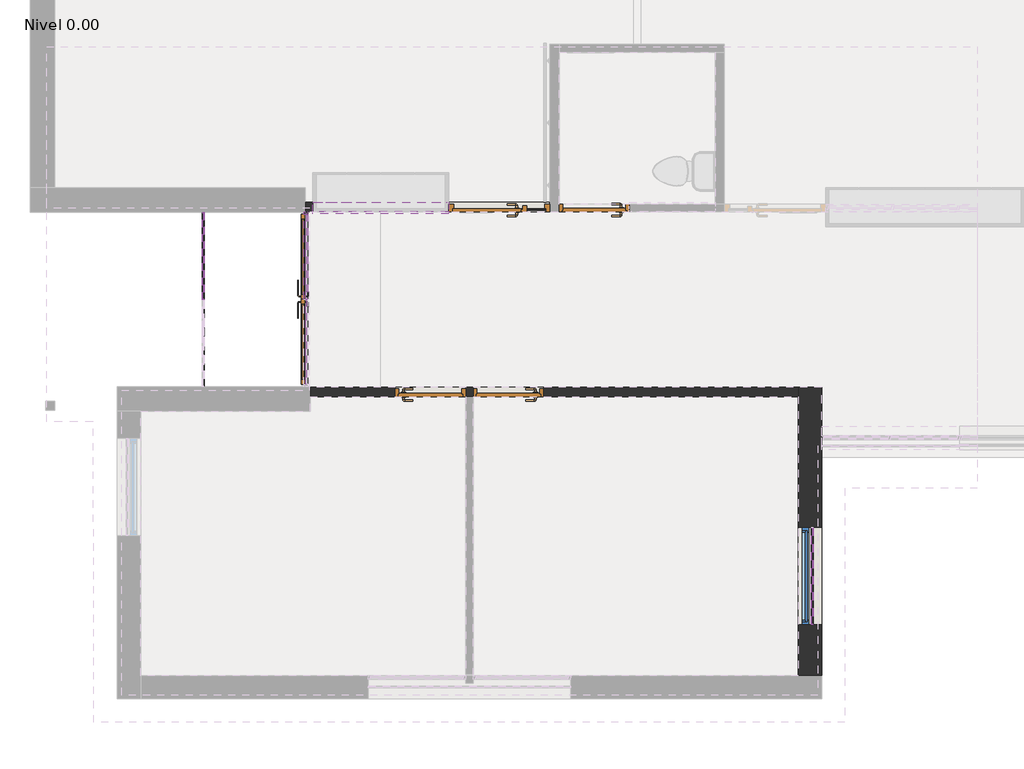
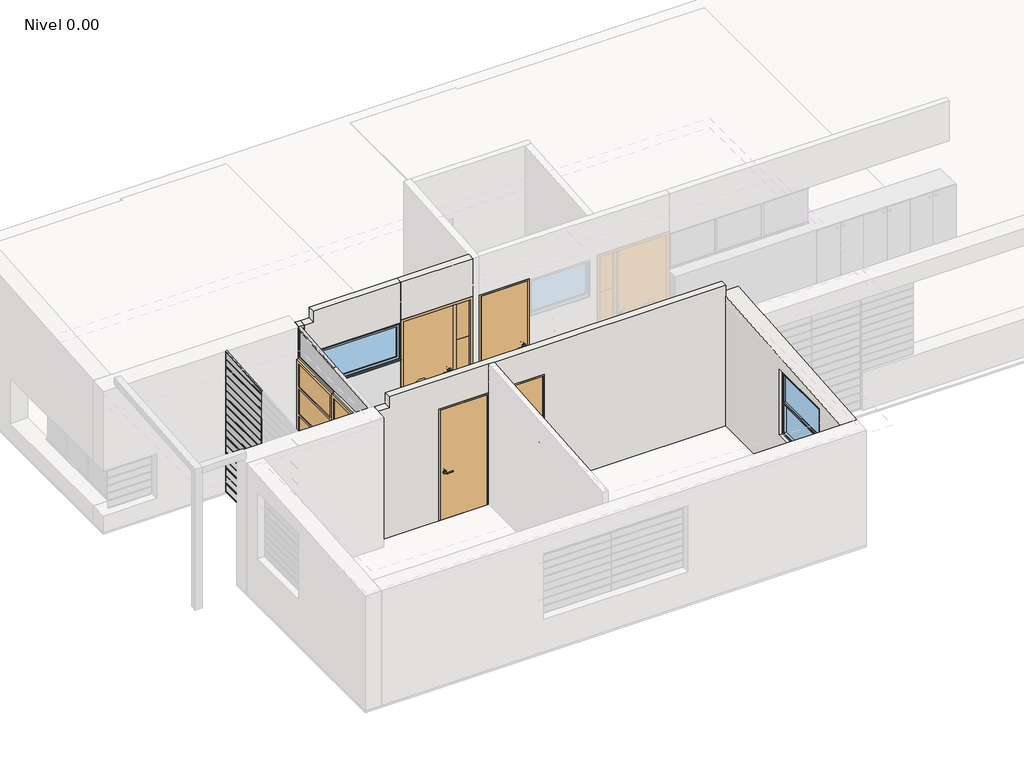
# One storey, part 3 of 27: 81 members, 22 plates, 5 doors, 5 walls, 2 windows.
"""IFC4 building model written with IfcOpenShell, lengths in millimetres."""

from ifc_helpers import new_model, si_unit, frame, origin, place, context, project, spatial, polyline, outline, extrude, faceted_brep, transform, mapped, element, save
from components import door_257b7ec9, puerta_c_02_04_c02_900x2100mm_1ad69d61, puerta_c_02_04_c02_900x2100mm_8723c3b4, puerta_c_02_04_c04_900x2100mm_1a8049c7, puerta_c_03_c03_1300x2100mm_be522cc0, circular_mullion_5fc61161, circular_mullion_3fe6ea7b, circular_mullion_e8028f71, l_corner_mullion_b20a5560, l_corner_mullion_fa812596, l_corner_mullion_3bf1f540, rectangular_mullion_3b31ee1e, rectangular_mullion_685686f8, rectangular_mullion_9a28259a, rectangular_mullion_8b01d1bd, rectangular_mullion_43c86492, rectangular_mullion_cc8915f7, rectangular_mullion_7228fb4c, rectangular_mullion_3f5f0f74, rectangular_mullion_a5abb8e0, rectangular_mullion_85fed397, rectangular_mullion_363bff1e, rectangular_mullion_f5d957c2, system_panel_1891fa89, system_panel_e1d120a6, system_panel_ae9d9fd1, system_panel_4abefd2b, system_panel_96016f27, system_panel_86425350, system_panel_9ad5222e, system_panel_glazed_5e888308, ventana_fija_1780x700mm_87993d91, vp_1250x1250mm_2af825d3

model = new_model("IFC4")

# Units and contexts
model_context = context("Model", 3, world=origin())
ifc_project = project(units=[si_unit("LENGTHUNIT", "METRE", prefix="MILLI")], contexts=[model_context])

# Site, building, storey
site = spatial("IfcSite", under=ifc_project)
building = spatial("IfcBuilding", under=site)
storey = spatial("IfcBuildingStorey", under=building, Name="Nivel 0.00", Elevation=0.0)

# Doors
placement = place(None, origin())
door_shape = door_257b7ec9(model_context)
element("IfcDoor", 1, ObjectType="PUERTA_ACCESO : PUERTA_ACCESO", at=placement, inside=storey, context=model_context, shape_type="MappedRepresentation", body=[
    mapped(door_shape, transform((-12585.5666682, -1961.8570383, 30.0), x_axis=(0.0, -1.0, 0.0), y_axis=(1.0, 0.0, 0.0), z_axis=(0.0, 0.0, 1.0))),
])
puerta_c_02_04_c02_900x2100mm_shape = puerta_c_02_04_c02_900x2100mm_1ad69d61(model_context)
element("IfcDoor", 2, ObjectType="PUERTA_C-02_04 : C02_900X2100mm", at=placement, inside=storey, context=model_context, shape_type="MappedRepresentation", body=[
    mapped(puerta_c_02_04_c02_900x2100mm_shape, transform((-8885.5924627, -784.2578399, 0.0), x_axis=(-1.0, 0.0, 0.0), y_axis=(0.0, -1.0, 0.0), z_axis=(0.0, 0.0, 1.0))),
])
puerta_c_02_04_c02_900x2100mm_2_shape = puerta_c_02_04_c02_900x2100mm_8723c3b4(model_context)
element("IfcDoor", 3, ObjectType="PUERTA_C-02_04 : C04_900X2100mm", at=placement, inside=storey, context=model_context, shape_type="MappedRepresentation", body=[
    mapped(puerta_c_02_04_c02_900x2100mm_2_shape, transform((-9987.4821357, -3144.2547653, 0.0), x_axis=(-1.0, 0.0, 0.0), y_axis=(0.0, -1.0, 0.0), z_axis=(0.0, 0.0, 1.0))),
])
puerta_c_02_04_c04_900x2100mm_shape = puerta_c_02_04_c04_900x2100mm_1a8049c7(model_context)
element("IfcDoor", 4, ObjectType="PUERTA_C-02_04 : C04_900X2100mm", at=placement, inside=storey, context=model_context, shape_type="MappedRepresentation", body=[
    mapped(puerta_c_02_04_c04_900x2100mm_shape, transform((-10987.4821358, -3144.2547653, 0.0), x_axis=(1.0, 0.0, 0.0), y_axis=(0.0, 1.0, 0.0), z_axis=(0.0, 0.0, 1.0))),
])
puerta_c_03_c03_1300x2100mm_shape = puerta_c_03_c03_1300x2100mm_be522cc0(model_context)
element("IfcDoor", 5, ObjectType="PUERTA_C-03 : C03_1300X2100mm", at=placement, inside=storey, context=model_context, shape_type="MappedRepresentation", body=[
    mapped(puerta_c_03_c03_1300x2100mm_shape, transform((-10105.5924627, -774.2593113, 0.0), x_axis=(1.0, 0.0, 0.0), y_axis=(0.0, 1.0, 0.0), z_axis=(0.0, 0.0, 1.0))),
])

# Members
circular_mullion_shape = circular_mullion_5fc61161(model_context)
element("IfcMember", 6, ObjectType="Circular Mullion : ARQ_HERR_16mm", at=placement, inside=storey, context=model_context, shape_type="MappedRepresentation", body=[
    mapped(circular_mullion_shape, transform((-6092.5557705, -6134.5609005, 988.8888889), x_axis=(0.0, 0.0, 1.0), y_axis=(-1.0, 0.0, 0.0), z_axis=(0.0, -1.0, 0.0))),
])
element("IfcMember", 7, ObjectType="Circular Mullion : ARQ_HERR_16mm", at=placement, inside=storey, context=model_context, shape_type="MappedRepresentation", body=[
    mapped(circular_mullion_shape, transform((-6092.5557705, -6134.5609005, 1127.7777778), x_axis=(0.0, 0.0, 1.0), y_axis=(-1.0, 0.0, 0.0), z_axis=(0.0, -1.0, 0.0))),
])
element("IfcMember", 8, ObjectType="Circular Mullion : ARQ_HERR_16mm", at=placement, inside=storey, context=model_context, shape_type="MappedRepresentation", body=[
    mapped(circular_mullion_shape, transform((-6092.5557705, -6134.5609005, 1266.6666667), x_axis=(0.0, 0.0, 1.0), y_axis=(-1.0, 0.0, 0.0), z_axis=(0.0, -1.0, 0.0))),
])
element("IfcMember", 9, ObjectType="Circular Mullion : ARQ_HERR_16mm", at=placement, inside=storey, context=model_context, shape_type="MappedRepresentation", body=[
    mapped(circular_mullion_shape, transform((-6092.5557705, -6134.5609005, 1405.5555556), x_axis=(0.0, 0.0, 1.0), y_axis=(-1.0, 0.0, 0.0), z_axis=(0.0, -1.0, 0.0))),
])
element("IfcMember", 10, ObjectType="Circular Mullion : ARQ_HERR_16mm", at=placement, inside=storey, context=model_context, shape_type="MappedRepresentation", body=[
    mapped(circular_mullion_shape, transform((-6092.5557705, -6134.5609005, 1544.4444444), x_axis=(0.0, 0.0, 1.0), y_axis=(-1.0, 0.0, 0.0), z_axis=(0.0, -1.0, 0.0))),
])
element("IfcMember", 11, ObjectType="Circular Mullion : ARQ_HERR_16mm", at=placement, inside=storey, context=model_context, shape_type="MappedRepresentation", body=[
    mapped(circular_mullion_shape, transform((-6092.5557705, -6134.5609005, 1683.3333333), x_axis=(0.0, 0.0, 1.0), y_axis=(-1.0, 0.0, 0.0), z_axis=(0.0, -1.0, 0.0))),
])
element("IfcMember", 12, ObjectType="Circular Mullion : ARQ_HERR_16mm", at=placement, inside=storey, context=model_context, shape_type="MappedRepresentation", body=[
    mapped(circular_mullion_shape, transform((-6092.5557705, -6134.5609005, 1822.2222222), x_axis=(0.0, 0.0, 1.0), y_axis=(-1.0, 0.0, 0.0), z_axis=(0.0, -1.0, 0.0))),
])
element("IfcMember", 13, ObjectType="Circular Mullion : ARQ_HERR_16mm", at=placement, inside=storey, context=model_context, shape_type="MappedRepresentation", body=[
    mapped(circular_mullion_shape, transform((-6092.5557705, -6134.5609005, 1961.1111111), x_axis=(0.0, 0.0, 1.0), y_axis=(-1.0, 0.0, 0.0), z_axis=(0.0, -1.0, 0.0))),
])
circular_mullion_2_shape = circular_mullion_3fe6ea7b(model_context)
element("IfcMember", 14, ObjectType="Circular Mullion : ARQ_HERR_16mm", at=placement, inside=storey, context=model_context, shape_type="MappedRepresentation", body=[
    mapped(circular_mullion_2_shape, transform((-13905.5666682, -1962.5828329, 148.0338449), x_axis=(0.0, 0.0, 1.0), y_axis=(-1.0, 0.0, 0.0), z_axis=(0.0, -1.0, 0.0))),
])
element("IfcMember", 15, ObjectType="Circular Mullion : ARQ_HERR_16mm", at=placement, inside=storey, context=model_context, shape_type="MappedRepresentation", body=[
    mapped(circular_mullion_2_shape, transform((-13905.5666682, -1962.5828329, 296.0676899), x_axis=(0.0, 0.0, 1.0), y_axis=(-1.0, 0.0, 0.0), z_axis=(0.0, -1.0, 0.0))),
])
element("IfcMember", 16, ObjectType="Circular Mullion : ARQ_HERR_16mm", at=placement, inside=storey, context=model_context, shape_type="MappedRepresentation", body=[
    mapped(circular_mullion_2_shape, transform((-13905.5666682, -1962.5828329, 444.1015348), x_axis=(0.0, 0.0, 1.0), y_axis=(-1.0, 0.0, 0.0), z_axis=(0.0, -1.0, 0.0))),
])
element("IfcMember", 17, ObjectType="Circular Mullion : ARQ_HERR_16mm", at=placement, inside=storey, context=model_context, shape_type="MappedRepresentation", body=[
    mapped(circular_mullion_2_shape, transform((-13905.5666682, -1962.5828329, 592.1353797), x_axis=(0.0, 0.0, 1.0), y_axis=(-1.0, 0.0, 0.0), z_axis=(0.0, -1.0, 0.0))),
])
element("IfcMember", 18, ObjectType="Circular Mullion : ARQ_HERR_16mm", at=placement, inside=storey, context=model_context, shape_type="MappedRepresentation", body=[
    mapped(circular_mullion_2_shape, transform((-13905.5666682, -1962.5828329, 740.1692247), x_axis=(0.0, 0.0, 1.0), y_axis=(-1.0, 0.0, 0.0), z_axis=(0.0, -1.0, 0.0))),
])
element("IfcMember", 19, ObjectType="Circular Mullion : ARQ_HERR_16mm", at=placement, inside=storey, context=model_context, shape_type="MappedRepresentation", body=[
    mapped(circular_mullion_2_shape, transform((-13905.5666682, -1962.5828329, 888.2030696), x_axis=(0.0, 0.0, 1.0), y_axis=(-1.0, 0.0, 0.0), z_axis=(0.0, -1.0, 0.0))),
])
element("IfcMember", 20, ObjectType="Circular Mullion : ARQ_HERR_16mm", at=placement, inside=storey, context=model_context, shape_type="MappedRepresentation", body=[
    mapped(circular_mullion_2_shape, transform((-13905.5666682, -1962.5828329, 1036.2369145), x_axis=(0.0, 0.0, 1.0), y_axis=(-1.0, 0.0, 0.0), z_axis=(0.0, -1.0, 0.0))),
])
element("IfcMember", 21, ObjectType="Circular Mullion : ARQ_HERR_16mm", at=placement, inside=storey, context=model_context, shape_type="MappedRepresentation", body=[
    mapped(circular_mullion_2_shape, transform((-13905.5666682, -1962.5828329, 1184.2707594), x_axis=(0.0, 0.0, 1.0), y_axis=(-1.0, 0.0, 0.0), z_axis=(0.0, -1.0, 0.0))),
])
element("IfcMember", 22, ObjectType="Circular Mullion : ARQ_HERR_16mm", at=placement, inside=storey, context=model_context, shape_type="MappedRepresentation", body=[
    mapped(circular_mullion_2_shape, transform((-13905.5666682, -1962.5828329, 1332.3046044), x_axis=(0.0, 0.0, 1.0), y_axis=(-1.0, 0.0, 0.0), z_axis=(0.0, -1.0, 0.0))),
])
element("IfcMember", 23, ObjectType="Circular Mullion : ARQ_HERR_16mm", at=placement, inside=storey, context=model_context, shape_type="MappedRepresentation", body=[
    mapped(circular_mullion_2_shape, transform((-13905.5666682, -1962.5828329, 1480.3384493), x_axis=(0.0, 0.0, 1.0), y_axis=(-1.0, 0.0, 0.0), z_axis=(0.0, -1.0, 0.0))),
])
element("IfcMember", 24, ObjectType="Circular Mullion : ARQ_HERR_16mm", at=placement, inside=storey, context=model_context, shape_type="MappedRepresentation", body=[
    mapped(circular_mullion_2_shape, transform((-13905.5666682, -1962.5828329, 1628.3722942), x_axis=(0.0, 0.0, 1.0), y_axis=(-1.0, 0.0, 0.0), z_axis=(0.0, -1.0, 0.0))),
])
element("IfcMember", 25, ObjectType="Circular Mullion : ARQ_HERR_16mm", at=placement, inside=storey, context=model_context, shape_type="MappedRepresentation", body=[
    mapped(circular_mullion_2_shape, transform((-13905.5666682, -1962.5828329, 1776.4061392), x_axis=(0.0, 0.0, 1.0), y_axis=(-1.0, 0.0, 0.0), z_axis=(0.0, -1.0, 0.0))),
])
element("IfcMember", 26, ObjectType="Circular Mullion : ARQ_HERR_16mm", at=placement, inside=storey, context=model_context, shape_type="MappedRepresentation", body=[
    mapped(circular_mullion_2_shape, transform((-13905.5666682, -1962.5828329, 1924.4399841), x_axis=(0.0, 0.0, 1.0), y_axis=(-1.0, 0.0, 0.0), z_axis=(0.0, -1.0, 0.0))),
])
circular_mullion_3_shape = circular_mullion_e8028f71(model_context)
element("IfcMember", 27, ObjectType="Circular Mullion : ARQ_HERR_16mm", at=placement, inside=storey, context=model_context, shape_type="MappedRepresentation", body=[
    mapped(circular_mullion_3_shape, transform((-13905.5666682, -1965.5828329, 2220.507674), x_axis=(0.0, 0.0, 1.0), y_axis=(-1.0, 0.0, 0.0), z_axis=(0.0, -1.0, 0.0))),
])
element("IfcMember", 28, ObjectType="Circular Mullion : ARQ_HERR_16mm", at=placement, inside=storey, context=model_context, shape_type="MappedRepresentation", body=[
    mapped(circular_mullion_3_shape, transform((-13905.5666682, -1965.5828329, 2368.5415189), x_axis=(0.0, 0.0, 1.0), y_axis=(-1.0, 0.0, 0.0), z_axis=(0.0, -1.0, 0.0))),
])
element("IfcMember", 29, ObjectType="Circular Mullion : ARQ_HERR_16mm", at=placement, inside=storey, context=model_context, shape_type="MappedRepresentation", body=[
    mapped(circular_mullion_3_shape, transform((-13905.5666682, -1965.5828329, 2516.5753638), x_axis=(0.0, 0.0, 1.0), y_axis=(-1.0, 0.0, 0.0), z_axis=(0.0, -1.0, 0.0))),
])
l_corner_mullion_shape = l_corner_mullion_b20a5560(model_context)
element("IfcMember", 30, ObjectType="L Corner Mullion : ARQ_HERR_15X6mm", at=placement, inside=storey, context=model_context, shape_type="MappedRepresentation", body=[
    mapped(l_corner_mullion_shape, transform((-6092.5557705, -6134.5609005, 2100.0), x_axis=(0.0, 0.0, 1.0), y_axis=(-1.0, 0.0, 0.0), z_axis=(0.0, -1.0, 0.0))),
])
element("IfcMember", 31, ObjectType="L Corner Mullion : ARQ_HERR_15X6mm", at=placement, inside=storey, context=model_context, shape_type="MappedRepresentation", body=[
    mapped(l_corner_mullion_shape, transform((-6092.5557705, -4896.5609005, 850.0), x_axis=(0.0, 0.0, -1.0), y_axis=(-1.0, 0.0, 0.0), z_axis=(0.0, 1.0, 0.0))),
])
l_corner_mullion_2_shape = l_corner_mullion_fa812596(model_context)
element("IfcMember", 32, ObjectType="L Corner Mullion : ARQ_HERR_15X6mm", at=placement, inside=storey, context=model_context, shape_type="MappedRepresentation", body=[
    mapped(l_corner_mullion_2_shape, transform((-13905.5666682, -854.0609004, 0.0), x_axis=(0.0, 0.0, -1.0), y_axis=(-1.0, 0.0, 0.0), z_axis=(0.0, 1.0, 0.0))),
])
element("IfcMember", 33, ObjectType="L Corner Mullion : ARQ_HERR_15X6mm", at=placement, inside=storey, context=model_context, shape_type="MappedRepresentation", body=[
    mapped(l_corner_mullion_2_shape, transform((-13905.5666682, -1968.5828329, 0.0), x_axis=(0.0, 0.0, -1.0), y_axis=(-1.0, 0.0, 0.0), z_axis=(0.0, 1.0, 0.0))),
])
l_corner_mullion_3_shape = l_corner_mullion_3bf1f540(model_context)
element("IfcMember", 34, ObjectType="L Corner Mullion : ARQ_HERR_15X6mm", at=placement, inside=storey, context=model_context, shape_type="MappedRepresentation", body=[
    mapped(l_corner_mullion_3_shape, transform((-13905.5666682, -1965.5828329, 2574.4484831), x_axis=(0.0, -0.08041785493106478, 0.9967612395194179), y_axis=(-1.0, 0.0, 0.0), z_axis=(0.0, -0.9967612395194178, -0.08041785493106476))),
])
rectangular_mullion_shape = rectangular_mullion_3b31ee1e(model_context)
element("IfcMember", 35, ObjectType="Rectangular Mullion : ARQ_TV_MULL_50x30mm", at=placement, inside=storey, context=model_context, shape_type="MappedRepresentation", body=[
    mapped(rectangular_mullion_shape, transform((-12585.5666682, -870.6093113, 0.0), x_axis=(0.0, 0.0, -1.0), y_axis=(-1.0, 0.0, 0.0), z_axis=(0.0, 1.0, 0.0))),
])
element("IfcMember", 36, ObjectType="Rectangular Mullion : ARQ_TV_MULL_50x30mm", at=placement, inside=storey, context=model_context, shape_type="MappedRepresentation", body=[
    mapped(rectangular_mullion_shape, transform((-12585.5666682, -1961.8570383, 0.0), x_axis=(0.0, 0.0, -1.0), y_axis=(-1.0, 0.0, 0.0), z_axis=(0.0, 1.0, 0.0))),
])
rectangular_mullion_2_shape = rectangular_mullion_685686f8(model_context)
element("IfcMember", 37, ObjectType="Rectangular Mullion : ARQ_TV_MULL_50x30mm", at=placement, inside=storey, context=model_context, shape_type="MappedRepresentation", body=[
    mapped(rectangular_mullion_2_shape, transform((-12585.5666682, -1961.8570383, 2100.0), x_axis=(0.0, 0.0, 1.0), y_axis=(-1.0, 0.0, 0.0), z_axis=(0.0, -1.0, 0.0))),
])
rectangular_mullion_3_shape = rectangular_mullion_9a28259a(model_context)
element("IfcMember", 38, ObjectType="Rectangular Mullion : ARQ_HERR_15X6mm", at=placement, inside=storey, context=model_context, shape_type="MappedRepresentation", body=[
    mapped(rectangular_mullion_3_shape, transform((-6092.5557705, -6140.5609005, 850.0), x_axis=(0.0, -1.0, 0.0), y_axis=(-1.0, 0.0, 0.0), z_axis=(0.0, 0.0, -1.0))),
])
element("IfcMember", 39, ObjectType="Rectangular Mullion : ARQ_HERR_15X6mm", at=placement, inside=storey, context=model_context, shape_type="MappedRepresentation", body=[
    mapped(rectangular_mullion_3_shape, transform((-6092.5557705, -6140.5609005, 988.8888889), x_axis=(0.0, -1.0, 0.0), y_axis=(-1.0, 0.0, 0.0), z_axis=(0.0, 0.0, -1.0))),
])
element("IfcMember", 40, ObjectType="Rectangular Mullion : ARQ_HERR_15X6mm", at=placement, inside=storey, context=model_context, shape_type="MappedRepresentation", body=[
    mapped(rectangular_mullion_3_shape, transform((-6092.5557705, -6140.5609005, 1127.7777778), x_axis=(0.0, -1.0, 0.0), y_axis=(-1.0, 0.0, 0.0), z_axis=(0.0, 0.0, -1.0))),
])
element("IfcMember", 41, ObjectType="Rectangular Mullion : ARQ_HERR_15X6mm", at=placement, inside=storey, context=model_context, shape_type="MappedRepresentation", body=[
    mapped(rectangular_mullion_3_shape, transform((-6092.5557705, -6140.5609005, 1266.6666667), x_axis=(0.0, -1.0, 0.0), y_axis=(-1.0, 0.0, 0.0), z_axis=(0.0, 0.0, -1.0))),
])
element("IfcMember", 42, ObjectType="Rectangular Mullion : ARQ_HERR_15X6mm", at=placement, inside=storey, context=model_context, shape_type="MappedRepresentation", body=[
    mapped(rectangular_mullion_3_shape, transform((-6092.5557705, -6140.5609005, 1405.5555556), x_axis=(0.0, -1.0, 0.0), y_axis=(-1.0, 0.0, 0.0), z_axis=(0.0, 0.0, -1.0))),
])
element("IfcMember", 43, ObjectType="Rectangular Mullion : ARQ_HERR_15X6mm", at=placement, inside=storey, context=model_context, shape_type="MappedRepresentation", body=[
    mapped(rectangular_mullion_3_shape, transform((-6092.5557705, -6140.5609005, 1544.4444444), x_axis=(0.0, -1.0, 0.0), y_axis=(-1.0, 0.0, 0.0), z_axis=(0.0, 0.0, -1.0))),
])
element("IfcMember", 44, ObjectType="Rectangular Mullion : ARQ_HERR_15X6mm", at=placement, inside=storey, context=model_context, shape_type="MappedRepresentation", body=[
    mapped(rectangular_mullion_3_shape, transform((-6092.5557705, -6140.5609005, 1683.3333333), x_axis=(0.0, -1.0, 0.0), y_axis=(-1.0, 0.0, 0.0), z_axis=(0.0, 0.0, -1.0))),
])
element("IfcMember", 45, ObjectType="Rectangular Mullion : ARQ_HERR_15X6mm", at=placement, inside=storey, context=model_context, shape_type="MappedRepresentation", body=[
    mapped(rectangular_mullion_3_shape, transform((-6092.5557705, -6140.5609005, 1822.2222222), x_axis=(0.0, -1.0, 0.0), y_axis=(-1.0, 0.0, 0.0), z_axis=(0.0, 0.0, -1.0))),
])
element("IfcMember", 46, ObjectType="Rectangular Mullion : ARQ_HERR_15X6mm", at=placement, inside=storey, context=model_context, shape_type="MappedRepresentation", body=[
    mapped(rectangular_mullion_3_shape, transform((-6092.5557705, -6140.5609005, 1961.1111111), x_axis=(0.0, -1.0, 0.0), y_axis=(-1.0, 0.0, 0.0), z_axis=(0.0, 0.0, -1.0))),
])
element("IfcMember", 47, ObjectType="Rectangular Mullion : ARQ_HERR_15X6mm", at=placement, inside=storey, context=model_context, shape_type="MappedRepresentation", body=[
    mapped(rectangular_mullion_3_shape, transform((-6092.5557705, -4890.5609005, 2100.0), x_axis=(0.0, 1.0, 0.0), y_axis=(-1.0, 0.0, 0.0), z_axis=(0.0, 0.0, 1.0))),
])
element("IfcMember", 48, ObjectType="Rectangular Mullion : ARQ_HERR_15X6mm", at=placement, inside=storey, context=model_context, shape_type="MappedRepresentation", body=[
    mapped(rectangular_mullion_3_shape, transform((-6092.5557705, -4890.5609005, 988.8888889), x_axis=(0.0, 1.0, 0.0), y_axis=(-1.0, 0.0, 0.0), z_axis=(0.0, 0.0, 1.0))),
])
element("IfcMember", 49, ObjectType="Rectangular Mullion : ARQ_HERR_15X6mm", at=placement, inside=storey, context=model_context, shape_type="MappedRepresentation", body=[
    mapped(rectangular_mullion_3_shape, transform((-6092.5557705, -4890.5609005, 1127.7777778), x_axis=(0.0, 1.0, 0.0), y_axis=(-1.0, 0.0, 0.0), z_axis=(0.0, 0.0, 1.0))),
])
rectangular_mullion_4_shape = rectangular_mullion_8b01d1bd(model_context)
element("IfcMember", 50, ObjectType="Rectangular Mullion : ARQ_TV_MULL_50x30mm", at=placement, inside=storey, context=model_context, shape_type="MappedRepresentation", body=[
    mapped(rectangular_mullion_4_shape, transform((-12585.5666682, -840.6093113, 2100.0), x_axis=(0.0, 1.0, 0.0), y_axis=(-1.0, 0.0, 0.0), z_axis=(0.0, 0.0, 1.0))),
])
rectangular_mullion_5_shape = rectangular_mullion_43c86492(model_context)
element("IfcMember", 51, ObjectType="Rectangular Mullion : ARQ_TV_MULL_50x30mm", at=placement, inside=storey, context=model_context, shape_type="MappedRepresentation", body=[
    mapped(rectangular_mullion_5_shape, transform((-12585.5666682, -840.6093113, 1332.6051983), x_axis=(0.0, 1.0, 0.0), y_axis=(-1.0, 0.0, 0.0), z_axis=(0.0, 0.0, 1.0))),
])
rectangular_mullion_6_shape = rectangular_mullion_cc8915f7(model_context)
element("IfcMember", 52, ObjectType="Rectangular Mullion : ARQ_TV_MULL_50x30mm", at=placement, inside=storey, context=model_context, shape_type="MappedRepresentation", body=[
    mapped(rectangular_mullion_6_shape, transform((-12585.5666682, -1961.8570383, 2574.7490771), x_axis=(0.0, -0.08041785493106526, 0.9967612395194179), y_axis=(-1.0, 0.0, 0.0), z_axis=(0.0, -0.9967612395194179, -0.08041785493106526))),
])
rectangular_mullion_7_shape = rectangular_mullion_7228fb4c(model_context)
element("IfcMember", 53, ObjectType="Rectangular Mullion : ARQ_TV_MULL_50x30mm", at=placement, inside=storey, context=model_context, shape_type="MappedRepresentation", body=[
    mapped(rectangular_mullion_7_shape, transform((-12585.5666682, -840.6093113, 2665.2103967), x_axis=(0.0, 1.0, 0.0), y_axis=(-1.0, 0.0, 0.0), z_axis=(0.0, 0.0, 1.0))),
])
rectangular_mullion_8_shape = rectangular_mullion_3f5f0f74(model_context)
element("IfcMember", 54, ObjectType="Rectangular Mullion : ARQ_HERR_15X6mm", at=placement, inside=storey, context=model_context, shape_type="MappedRepresentation", body=[
    mapped(rectangular_mullion_8_shape, transform((-13905.5666682, -1965.5828329, 0.0), x_axis=(0.0, -1.0, 0.0), y_axis=(-1.0, 0.0, 0.0), z_axis=(0.0, 0.0, -1.0))),
])
element("IfcMember", 55, ObjectType="Rectangular Mullion : ARQ_HERR_15X6mm", at=placement, inside=storey, context=model_context, shape_type="MappedRepresentation", body=[
    mapped(rectangular_mullion_8_shape, transform((-13905.5666682, -1965.5828329, 148.0338449), x_axis=(0.0, -1.0, 0.0), y_axis=(-1.0, 0.0, 0.0), z_axis=(0.0, 0.0, -1.0))),
])
element("IfcMember", 56, ObjectType="Rectangular Mullion : ARQ_HERR_15X6mm", at=placement, inside=storey, context=model_context, shape_type="MappedRepresentation", body=[
    mapped(rectangular_mullion_8_shape, transform((-13905.5666682, -1965.5828329, 296.0676899), x_axis=(0.0, -1.0, 0.0), y_axis=(-1.0, 0.0, 0.0), z_axis=(0.0, 0.0, -1.0))),
])
element("IfcMember", 57, ObjectType="Rectangular Mullion : ARQ_HERR_15X6mm", at=placement, inside=storey, context=model_context, shape_type="MappedRepresentation", body=[
    mapped(rectangular_mullion_8_shape, transform((-13905.5666682, -1965.5828329, 444.1015348), x_axis=(0.0, -1.0, 0.0), y_axis=(-1.0, 0.0, 0.0), z_axis=(0.0, 0.0, -1.0))),
])
element("IfcMember", 58, ObjectType="Rectangular Mullion : ARQ_HERR_15X6mm", at=placement, inside=storey, context=model_context, shape_type="MappedRepresentation", body=[
    mapped(rectangular_mullion_8_shape, transform((-13905.5666682, -1965.5828329, 592.1353797), x_axis=(0.0, -1.0, 0.0), y_axis=(-1.0, 0.0, 0.0), z_axis=(0.0, 0.0, -1.0))),
])
element("IfcMember", 59, ObjectType="Rectangular Mullion : ARQ_HERR_15X6mm", at=placement, inside=storey, context=model_context, shape_type="MappedRepresentation", body=[
    mapped(rectangular_mullion_8_shape, transform((-13905.5666682, -1965.5828329, 740.1692247), x_axis=(0.0, -1.0, 0.0), y_axis=(-1.0, 0.0, 0.0), z_axis=(0.0, 0.0, -1.0))),
])
element("IfcMember", 60, ObjectType="Rectangular Mullion : ARQ_HERR_15X6mm", at=placement, inside=storey, context=model_context, shape_type="MappedRepresentation", body=[
    mapped(rectangular_mullion_8_shape, transform((-13905.5666682, -1965.5828329, 888.2030696), x_axis=(0.0, -1.0, 0.0), y_axis=(-1.0, 0.0, 0.0), z_axis=(0.0, 0.0, -1.0))),
])
element("IfcMember", 61, ObjectType="Rectangular Mullion : ARQ_HERR_15X6mm", at=placement, inside=storey, context=model_context, shape_type="MappedRepresentation", body=[
    mapped(rectangular_mullion_8_shape, transform((-13905.5666682, -1965.5828329, 1036.2369145), x_axis=(0.0, -1.0, 0.0), y_axis=(-1.0, 0.0, 0.0), z_axis=(0.0, 0.0, -1.0))),
])
element("IfcMember", 62, ObjectType="Rectangular Mullion : ARQ_HERR_15X6mm", at=placement, inside=storey, context=model_context, shape_type="MappedRepresentation", body=[
    mapped(rectangular_mullion_8_shape, transform((-13905.5666682, -1965.5828329, 1184.2707594), x_axis=(0.0, -1.0, 0.0), y_axis=(-1.0, 0.0, 0.0), z_axis=(0.0, 0.0, -1.0))),
])
element("IfcMember", 63, ObjectType="Rectangular Mullion : ARQ_HERR_15X6mm", at=placement, inside=storey, context=model_context, shape_type="MappedRepresentation", body=[
    mapped(rectangular_mullion_8_shape, transform((-13905.5666682, -1965.5828329, 1332.3046044), x_axis=(0.0, -1.0, 0.0), y_axis=(-1.0, 0.0, 0.0), z_axis=(0.0, 0.0, -1.0))),
])
element("IfcMember", 64, ObjectType="Rectangular Mullion : ARQ_HERR_15X6mm", at=placement, inside=storey, context=model_context, shape_type="MappedRepresentation", body=[
    mapped(rectangular_mullion_8_shape, transform((-13905.5666682, -1965.5828329, 1480.3384493), x_axis=(0.0, -1.0, 0.0), y_axis=(-1.0, 0.0, 0.0), z_axis=(0.0, 0.0, -1.0))),
])
element("IfcMember", 65, ObjectType="Rectangular Mullion : ARQ_HERR_15X6mm", at=placement, inside=storey, context=model_context, shape_type="MappedRepresentation", body=[
    mapped(rectangular_mullion_8_shape, transform((-13905.5666682, -1965.5828329, 1628.3722942), x_axis=(0.0, -1.0, 0.0), y_axis=(-1.0, 0.0, 0.0), z_axis=(0.0, 0.0, -1.0))),
])
element("IfcMember", 66, ObjectType="Rectangular Mullion : ARQ_HERR_15X6mm", at=placement, inside=storey, context=model_context, shape_type="MappedRepresentation", body=[
    mapped(rectangular_mullion_8_shape, transform((-13905.5666682, -1965.5828329, 1776.4061392), x_axis=(0.0, -1.0, 0.0), y_axis=(-1.0, 0.0, 0.0), z_axis=(0.0, 0.0, -1.0))),
])
rectangular_mullion_9_shape = rectangular_mullion_a5abb8e0(model_context)
element("IfcMember", 67, ObjectType="Rectangular Mullion : ARQ_HERR_15X6mm", at=placement, inside=storey, context=model_context, shape_type="MappedRepresentation", body=[
    mapped(rectangular_mullion_9_shape, transform((-13905.5666682, -848.0609004, 148.0338449), x_axis=(0.0, 1.0, 0.0), y_axis=(-1.0, 0.0, 0.0), z_axis=(0.0, 0.0, 1.0))),
])
element("IfcMember", 68, ObjectType="Rectangular Mullion : ARQ_HERR_15X6mm", at=placement, inside=storey, context=model_context, shape_type="MappedRepresentation", body=[
    mapped(rectangular_mullion_9_shape, transform((-13905.5666682, -848.0609004, 296.0676899), x_axis=(0.0, 1.0, 0.0), y_axis=(-1.0, 0.0, 0.0), z_axis=(0.0, 0.0, 1.0))),
])
element("IfcMember", 69, ObjectType="Rectangular Mullion : ARQ_HERR_15X6mm", at=placement, inside=storey, context=model_context, shape_type="MappedRepresentation", body=[
    mapped(rectangular_mullion_9_shape, transform((-13905.5666682, -848.0609004, 444.1015348), x_axis=(0.0, 1.0, 0.0), y_axis=(-1.0, 0.0, 0.0), z_axis=(0.0, 0.0, 1.0))),
])
element("IfcMember", 70, ObjectType="Rectangular Mullion : ARQ_HERR_15X6mm", at=placement, inside=storey, context=model_context, shape_type="MappedRepresentation", body=[
    mapped(rectangular_mullion_9_shape, transform((-13905.5666682, -848.0609004, 592.1353797), x_axis=(0.0, 1.0, 0.0), y_axis=(-1.0, 0.0, 0.0), z_axis=(0.0, 0.0, 1.0))),
])
element("IfcMember", 71, ObjectType="Rectangular Mullion : ARQ_HERR_15X6mm", at=placement, inside=storey, context=model_context, shape_type="MappedRepresentation", body=[
    mapped(rectangular_mullion_9_shape, transform((-13905.5666682, -848.0609004, 740.1692247), x_axis=(0.0, 1.0, 0.0), y_axis=(-1.0, 0.0, 0.0), z_axis=(0.0, 0.0, 1.0))),
])
element("IfcMember", 72, ObjectType="Rectangular Mullion : ARQ_HERR_15X6mm", at=placement, inside=storey, context=model_context, shape_type="MappedRepresentation", body=[
    mapped(rectangular_mullion_9_shape, transform((-13905.5666682, -848.0609004, 888.2030696), x_axis=(0.0, 1.0, 0.0), y_axis=(-1.0, 0.0, 0.0), z_axis=(0.0, 0.0, 1.0))),
])
element("IfcMember", 73, ObjectType="Rectangular Mullion : ARQ_HERR_15X6mm", at=placement, inside=storey, context=model_context, shape_type="MappedRepresentation", body=[
    mapped(rectangular_mullion_9_shape, transform((-13905.5666682, -848.0609004, 1036.2369145), x_axis=(0.0, 1.0, 0.0), y_axis=(-1.0, 0.0, 0.0), z_axis=(0.0, 0.0, 1.0))),
])
element("IfcMember", 74, ObjectType="Rectangular Mullion : ARQ_HERR_15X6mm", at=placement, inside=storey, context=model_context, shape_type="MappedRepresentation", body=[
    mapped(rectangular_mullion_9_shape, transform((-13905.5666682, -848.0609004, 1184.2707594), x_axis=(0.0, 1.0, 0.0), y_axis=(-1.0, 0.0, 0.0), z_axis=(0.0, 0.0, 1.0))),
])
element("IfcMember", 75, ObjectType="Rectangular Mullion : ARQ_HERR_15X6mm", at=placement, inside=storey, context=model_context, shape_type="MappedRepresentation", body=[
    mapped(rectangular_mullion_9_shape, transform((-13905.5666682, -848.0609004, 1332.3046044), x_axis=(0.0, 1.0, 0.0), y_axis=(-1.0, 0.0, 0.0), z_axis=(0.0, 0.0, 1.0))),
])
element("IfcMember", 76, ObjectType="Rectangular Mullion : ARQ_HERR_15X6mm", at=placement, inside=storey, context=model_context, shape_type="MappedRepresentation", body=[
    mapped(rectangular_mullion_9_shape, transform((-13905.5666682, -848.0609004, 1480.3384493), x_axis=(0.0, 1.0, 0.0), y_axis=(-1.0, 0.0, 0.0), z_axis=(0.0, 0.0, 1.0))),
])
element("IfcMember", 77, ObjectType="Rectangular Mullion : ARQ_HERR_15X6mm", at=placement, inside=storey, context=model_context, shape_type="MappedRepresentation", body=[
    mapped(rectangular_mullion_9_shape, transform((-13905.5666682, -848.0609004, 1628.3722942), x_axis=(0.0, 1.0, 0.0), y_axis=(-1.0, 0.0, 0.0), z_axis=(0.0, 0.0, 1.0))),
])
element("IfcMember", 78, ObjectType="Rectangular Mullion : ARQ_HERR_15X6mm", at=placement, inside=storey, context=model_context, shape_type="MappedRepresentation", body=[
    mapped(rectangular_mullion_9_shape, transform((-13905.5666682, -848.0609004, 1776.4061392), x_axis=(0.0, 1.0, 0.0), y_axis=(-1.0, 0.0, 0.0), z_axis=(0.0, 0.0, 1.0))),
])
element("IfcMember", 79, ObjectType="Rectangular Mullion : ARQ_HERR_15X6mm", at=placement, inside=storey, context=model_context, shape_type="MappedRepresentation", body=[
    mapped(rectangular_mullion_9_shape, transform((-13905.5666682, -848.0609004, 1924.4399841), x_axis=(0.0, 1.0, 0.0), y_axis=(-1.0, 0.0, 0.0), z_axis=(0.0, 0.0, 1.0))),
])
element("IfcMember", 80, ObjectType="Rectangular Mullion : ARQ_HERR_15X6mm", at=placement, inside=storey, context=model_context, shape_type="MappedRepresentation", body=[
    mapped(rectangular_mullion_9_shape, transform((-13905.5666682, -848.0609004, 2072.473829), x_axis=(0.0, 1.0, 0.0), y_axis=(-1.0, 0.0, 0.0), z_axis=(0.0, 0.0, 1.0))),
])
element("IfcMember", 81, ObjectType="Rectangular Mullion : ARQ_HERR_15X6mm", at=placement, inside=storey, context=model_context, shape_type="MappedRepresentation", body=[
    mapped(rectangular_mullion_9_shape, transform((-13905.5666682, -848.0609004, 2220.507674), x_axis=(0.0, 1.0, 0.0), y_axis=(-1.0, 0.0, 0.0), z_axis=(0.0, 0.0, 1.0))),
])
element("IfcMember", 82, ObjectType="Rectangular Mullion : ARQ_HERR_15X6mm", at=placement, inside=storey, context=model_context, shape_type="MappedRepresentation", body=[
    mapped(rectangular_mullion_9_shape, transform((-13905.5666682, -848.0609004, 2368.5415189), x_axis=(0.0, 1.0, 0.0), y_axis=(-1.0, 0.0, 0.0), z_axis=(0.0, 0.0, 1.0))),
])
element("IfcMember", 83, ObjectType="Rectangular Mullion : ARQ_HERR_15X6mm", at=placement, inside=storey, context=model_context, shape_type="MappedRepresentation", body=[
    mapped(rectangular_mullion_9_shape, transform((-13905.5666682, -848.0609004, 2516.5753638), x_axis=(0.0, 1.0, 0.0), y_axis=(-1.0, 0.0, 0.0), z_axis=(0.0, 0.0, 1.0))),
])
rectangular_mullion_10_shape = rectangular_mullion_85fed397(model_context)
element("IfcMember", 84, ObjectType="Rectangular Mullion : ARQ_HERR_15X6mm", at=placement, inside=storey, context=model_context, shape_type="MappedRepresentation", body=[
    mapped(rectangular_mullion_10_shape, transform((-13905.5666682, -848.0609004, 2664.6092087), x_axis=(0.0, 1.0, 0.0), y_axis=(-1.0, 0.0, 0.0), z_axis=(0.0, 0.0, 1.0))),
])
rectangular_mullion_11_shape = rectangular_mullion_363bff1e(model_context)
element("IfcMember", 85, ObjectType="Rectangular Mullion : ARQ_HERR_15X6mm", at=placement, inside=storey, context=model_context, shape_type="MappedRepresentation", body=[
    mapped(rectangular_mullion_11_shape, transform((-13905.5666682, -1965.5828329, 1924.4399841), x_axis=(0.0, -1.0, 0.0), y_axis=(-1.0, 0.0, 0.0), z_axis=(0.0, 0.0, -1.0))),
])
rectangular_mullion_12_shape = rectangular_mullion_f5d957c2(model_context)
element("IfcMember", 86, ObjectType="Rectangular Mullion : ARQ_HERR_15X6mm", at=placement, inside=storey, context=model_context, shape_type="MappedRepresentation", body=[
    mapped(rectangular_mullion_12_shape, transform((-13905.5666682, -1962.5828329, 2072.473829), x_axis=(0.0, 0.0, 1.0), y_axis=(-1.0, 0.0, 0.0), z_axis=(0.0, -1.0, 0.0))),
])

# Plates
system_panel_shape = system_panel_1891fa89(model_context)
element("IfcPlate", 87, ObjectType="System Panel : VACÍO", at=placement, inside=storey, context=model_context, shape_type="MappedRepresentation", body=[
    mapped(system_panel_shape, transform((-6092.5557705, -5515.5609005, 856.0), x_axis=(0.0, -1.0, 0.0), y_axis=(1.0, 0.0, 0.0), z_axis=(0.0, 0.0, 1.0))),
])
element("IfcPlate", 88, ObjectType="System Panel : VACÍO", at=placement, inside=storey, context=model_context, shape_type="MappedRepresentation", body=[
    mapped(system_panel_shape, transform((-6092.5557705, -5515.5609005, 1969.1111111), x_axis=(0.0, -1.0, 0.0), y_axis=(1.0, 0.0, 0.0), z_axis=(0.0, 0.0, 1.0))),
])
system_panel_2_shape = system_panel_e1d120a6(model_context)
element("IfcPlate", 89, ObjectType="System Panel : VACÍO", at=placement, inside=storey, context=model_context, shape_type="MappedRepresentation", body=[
    mapped(system_panel_2_shape, transform((-6092.5557705, -5515.5609005, 996.8888889), x_axis=(0.0, -1.0, 0.0), y_axis=(1.0, 0.0, 0.0), z_axis=(0.0, 0.0, 1.0))),
])
element("IfcPlate", 90, ObjectType="System Panel : VACÍO", at=placement, inside=storey, context=model_context, shape_type="MappedRepresentation", body=[
    mapped(system_panel_2_shape, transform((-6092.5557705, -5515.5609005, 1135.7777778), x_axis=(0.0, -1.0, 0.0), y_axis=(1.0, 0.0, 0.0), z_axis=(0.0, 0.0, 1.0))),
])
element("IfcPlate", 91, ObjectType="System Panel : VACÍO", at=placement, inside=storey, context=model_context, shape_type="MappedRepresentation", body=[
    mapped(system_panel_2_shape, transform((-6092.5557705, -5515.5609005, 1274.6666667), x_axis=(0.0, -1.0, 0.0), y_axis=(1.0, 0.0, 0.0), z_axis=(0.0, 0.0, 1.0))),
])
element("IfcPlate", 92, ObjectType="System Panel : VACÍO", at=placement, inside=storey, context=model_context, shape_type="MappedRepresentation", body=[
    mapped(system_panel_2_shape, transform((-6092.5557705, -5515.5609005, 1413.5555556), x_axis=(0.0, -1.0, 0.0), y_axis=(1.0, 0.0, 0.0), z_axis=(0.0, 0.0, 1.0))),
])
element("IfcPlate", 93, ObjectType="System Panel : VACÍO", at=placement, inside=storey, context=model_context, shape_type="MappedRepresentation", body=[
    mapped(system_panel_2_shape, transform((-6092.5557705, -5515.5609005, 1552.4444444), x_axis=(0.0, -1.0, 0.0), y_axis=(1.0, 0.0, 0.0), z_axis=(0.0, 0.0, 1.0))),
])
element("IfcPlate", 94, ObjectType="System Panel : VACÍO", at=placement, inside=storey, context=model_context, shape_type="MappedRepresentation", body=[
    mapped(system_panel_2_shape, transform((-6092.5557705, -5515.5609005, 1691.3333333), x_axis=(0.0, -1.0, 0.0), y_axis=(1.0, 0.0, 0.0), z_axis=(0.0, 0.0, 1.0))),
])
element("IfcPlate", 95, ObjectType="System Panel : VACÍO", at=placement, inside=storey, context=model_context, shape_type="MappedRepresentation", body=[
    mapped(system_panel_2_shape, transform((-6092.5557705, -5515.5609005, 1830.2222222), x_axis=(0.0, -1.0, 0.0), y_axis=(1.0, 0.0, 0.0), z_axis=(0.0, 0.0, 1.0))),
])
system_panel_3_shape = system_panel_ae9d9fd1(model_context)
element("IfcPlate", 96, ObjectType="System Panel : VACÍO", at=placement, inside=storey, context=model_context, shape_type="MappedRepresentation", body=[
    mapped(system_panel_3_shape, transform((-13905.5666682, -1408.3218667, 896.2030696), x_axis=(0.0, -1.0, 0.0), y_axis=(1.0, 0.0, 0.0), z_axis=(0.0, 0.0, 1.0))),
])
element("IfcPlate", 97, ObjectType="System Panel : VACÍO", at=placement, inside=storey, context=model_context, shape_type="MappedRepresentation", body=[
    mapped(system_panel_3_shape, transform((-13905.5666682, -1408.3218667, 1044.2369145), x_axis=(0.0, -1.0, 0.0), y_axis=(1.0, 0.0, 0.0), z_axis=(0.0, 0.0, 1.0))),
])
element("IfcPlate", 98, ObjectType="System Panel : VACÍO", at=placement, inside=storey, context=model_context, shape_type="MappedRepresentation", body=[
    mapped(system_panel_3_shape, transform((-13905.5666682, -1408.3218667, 1192.2707594), x_axis=(0.0, -1.0, 0.0), y_axis=(1.0, 0.0, 0.0), z_axis=(0.0, 0.0, 1.0))),
])
element("IfcPlate", 99, ObjectType="System Panel : VACÍO", at=placement, inside=storey, context=model_context, shape_type="MappedRepresentation", body=[
    mapped(system_panel_3_shape, transform((-13905.5666682, -1408.3218667, 1340.3046044), x_axis=(0.0, -1.0, 0.0), y_axis=(1.0, 0.0, 0.0), z_axis=(0.0, 0.0, 1.0))),
])
element("IfcPlate", 100, ObjectType="System Panel : VACÍO", at=placement, inside=storey, context=model_context, shape_type="MappedRepresentation", body=[
    mapped(system_panel_3_shape, transform((-13905.5666682, -1408.3218667, 1488.3384493), x_axis=(0.0, -1.0, 0.0), y_axis=(1.0, 0.0, 0.0), z_axis=(0.0, 0.0, 1.0))),
])
element("IfcPlate", 101, ObjectType="System Panel : VACÍO", at=placement, inside=storey, context=model_context, shape_type="MappedRepresentation", body=[
    mapped(system_panel_3_shape, transform((-13905.5666682, -1408.3218667, 1636.3722942), x_axis=(0.0, -1.0, 0.0), y_axis=(1.0, 0.0, 0.0), z_axis=(0.0, 0.0, 1.0))),
])
element("IfcPlate", 102, ObjectType="System Panel : VACÍO", at=placement, inside=storey, context=model_context, shape_type="MappedRepresentation", body=[
    mapped(system_panel_3_shape, transform((-13905.5666682, -1408.3218667, 1784.4061392), x_axis=(0.0, -1.0, 0.0), y_axis=(1.0, 0.0, 0.0), z_axis=(0.0, 0.0, 1.0))),
])
system_panel_4_shape = system_panel_4abefd2b(model_context)
element("IfcPlate", 103, ObjectType="System Panel : VACÍO", at=placement, inside=storey, context=model_context, shape_type="MappedRepresentation", body=[
    mapped(system_panel_4_shape, transform((-13905.5666682, -1409.8218667, 2228.507674), x_axis=(0.0, -1.0, 0.0), y_axis=(1.0, 0.0, 0.0), z_axis=(0.0, 0.0, 1.0))),
])
element("IfcPlate", 104, ObjectType="System Panel : VACÍO", at=placement, inside=storey, context=model_context, shape_type="MappedRepresentation", body=[
    mapped(system_panel_4_shape, transform((-13905.5666682, -1409.8218667, 2376.5415189), x_axis=(0.0, -1.0, 0.0), y_axis=(1.0, 0.0, 0.0), z_axis=(0.0, 0.0, 1.0))),
])
system_panel_5_shape = system_panel_96016f27(model_context)
element("IfcPlate", 105, ObjectType="System Panel : VACÍO", at=placement, inside=storey, context=model_context, shape_type="MappedRepresentation", body=[
    mapped(system_panel_5_shape, transform((-13905.5666682, -1409.8218667, 2524.5753638), x_axis=(0.0, -1.0, 0.0), y_axis=(1.0, 0.0, 0.0), z_axis=(0.0, 0.0, 1.0))),
])
system_panel_6_shape = system_panel_86425350(model_context)
element("IfcPlate", 106, ObjectType="System Panel : VACÍO", at=placement, inside=storey, context=model_context, shape_type="MappedRepresentation", body=[
    mapped(system_panel_6_shape, transform((-13905.5666682, -1408.3218667, 1932.4399841), x_axis=(0.0, -1.0, 0.0), y_axis=(1.0, 0.0, 0.0), z_axis=(0.0, 0.0, 1.0))),
])
system_panel_7_shape = system_panel_9ad5222e(model_context)
element("IfcPlate", 107, ObjectType="System Panel : VACÍO", at=placement, inside=storey, context=model_context, shape_type="MappedRepresentation", body=[
    mapped(system_panel_7_shape, transform((-13905.5666682, -1409.8218667, 2075.473829), x_axis=(0.0, -1.0, 0.0), y_axis=(1.0, 0.0, 0.0), z_axis=(0.0, 0.0, 1.0))),
])
system_panel_glazed_shape = system_panel_glazed_5e888308(model_context)
element("IfcPlate", 108, ObjectType="System Panel : Glazed", at=placement, inside=storey, context=model_context, shape_type="MappedRepresentation", body=[
    mapped(system_panel_glazed_shape, transform((-12585.5666682, -1961.8570383, 2115.0), x_axis=(0.0, -1.0, 0.0), y_axis=(1.0, 0.0, 0.0), z_axis=(0.0, 0.0, 1.0))),
])

# Walls
element("IfcWall", 109, ObjectType="ARQ_MUR_M02-V_300mm", at=placement, inside=storey, context=model_context, shape_type="Brep", body=[
    faceted_brep([(-5970.0557705, -6790.6047653, -20.0), (-5970.0557705, -3090.6047653, -20.0), (-5970.0557705, -3090.6047653, 2485.5218399), (-5970.0557705, -3590.5609004, 2445.272456), (-5970.0557705, -3890.5609004, 2421.1207069), (-5970.0557705, -6790.6047653, 2187.650267), (-5970.0557705, -6140.5609005, 850.0), (-5970.0557705, -6140.5609005, 2100.0), (-5970.0557705, -4890.5609005, 2100.0), (-5970.0557705, -4890.5609005, 850.0), (-6270.0557705, -3090.6047653, -20.0), (-6270.0557705, -3210.6047653, -20.0), (-6270.0557705, -6790.6047653, -20.0), (-6270.0557705, -6790.6047653, 2187.650267), (-6270.0557705, -3090.6047653, 2485.5218399), (-6270.0557705, -6140.5609005, 2100.0), (-6270.0557705, -6140.5609005, 850.0), (-6270.0557705, -4890.5609005, 850.0), (-6270.0557705, -4890.5609005, 2100.0)], [[[0, 1, 2, 3, 4, 5], [6, 7, 8, 9]], [[10, 11, 12, 13, 14], [15, 16, 17, 18]], [[1, 0, 12, 11, 10]], [[0, 5, 13, 12]], [[2, 1, 10, 14]], [[5, 4, 3, 2, 14, 13]], [[15, 7, 6, 16]], [[16, 6, 9, 17]], [[17, 9, 8, 18]], [[7, 15, 18, 8]]]),
])
element("IfcWall", 110, ObjectType="ARQ_TAB_T03_120mm", at=placement, inside=storey, context=model_context, shape_type="Brep", body=[
    faceted_brep([(-12595.5666682, -840.6093113, -20.0), (-12495.5666682, -840.6093113, -20.0), (-12495.5666682, -840.6093113, 2100.0), (-12495.5666682, -840.6093113, 2665.2103967), (-12495.5666682, -840.6093113, 2666.6595925), (-12595.5666682, -840.6093113, 2666.6595925), (-12595.5666682, -720.6093113, -20.0), (-12595.5666682, -720.6093113, 2676.3202922), (-12495.5666682, -720.6093113, 2676.3202922), (-12495.5666682, -720.6093113, 2674.8918953), (-12495.5666682, -720.6093113, 2100.0), (-12495.5666682, -720.6093113, -20.0)], [[[0, 1, 2, 3, 4, 5]], [[6, 7, 8, 9, 10, 11]], [[1, 0, 6, 11]], [[4, 3, 2, 1, 11, 10, 9, 8]], [[0, 5, 7, 6]], [[5, 4, 8, 7]]]),
])
element("IfcWall", 111, ObjectType="ARQ_TAB_T03_120mm", at=placement, inside=storey, context=model_context, shape_type="SweptSolid", body=[
    extrude(outline(polyline([(-9455.5924627, -840.6093113), (-10755.5924627, -840.6093113), (-10755.5924627, -720.6093113), (-9455.5924627, -720.6093113), (-9455.5924627, -840.6093113)])), frame((0.0, 0.0, -20.0), z_axis=(0.0, 0.0, 1.0), x_axis=(1.0, 0.0, 0.0)), (0.0, 0.0, 1.0), 20.0),
    extrude(outline(polyline([(-840.6093113, 2867.3066647), (-720.6093113, 2876.9673643), (-720.6093113, 2150.0), (-840.6093113, 2150.0), (-840.6093113, 2867.3066647)])), frame((-10755.5924627, 0.0, 0.0), z_axis=(1.0, 0.0, 0.0), x_axis=(0.0, 1.0, 0.0)), (0.0, 0.0, 1.0), 1300.0),
])
element("IfcWall", 112, ObjectType="ARQ_TAB_T03_120mm", at=placement, inside=storey, context=model_context, shape_type="Brep", body=[
    faceted_brep([(-12332.853063, -840.6093113, 2867.3066647), (-12332.853063, -840.6093113, 2665.2103967), (-12495.5666682, -840.6093113, 2665.2103967), (-12495.5666682, -840.6093113, 2100.0), (-10755.5924627, -840.6093113, 2100.0), (-10755.5924627, -840.6093113, 2150.0), (-10755.5924627, -840.6093113, 2867.3066647), (-12332.853063, -720.6093113, 2674.8918953), (-12332.853063, -720.6093113, 2876.9673643), (-10755.5924627, -720.6093113, 2876.9673643), (-10755.5924627, -720.6093113, 2150.0), (-10755.5924627, -720.6093113, 2100.0), (-12495.5666682, -720.6093113, 2100.0), (-12495.5666682, -720.6093113, 2674.8918953)], [[[0, 1, 2, 3, 4, 5, 6]], [[7, 8, 9, 10, 11, 12, 13]], [[9, 6, 5, 4, 11, 10]], [[2, 13, 12, 3]], [[4, 3, 12, 11]], [[1, 0, 8, 7]], [[6, 9, 8, 0]], [[13, 2, 1, 7]]]),
])
element("IfcWall", 113, ObjectType="ARQ_TAB_T04_120mm", at=placement, inside=storey, context=model_context, shape_type="Brep", body=[
    faceted_brep([(-6270.0557705, -3090.6047653, -20.0), (-12532.853063, -3090.6047653, -20.0), (-12532.853063, -3090.6047653, 2483.6826638), (-12332.853063, -3090.6047653, 2483.6826638), (-12332.853063, -3090.6047653, 2686.168912), (-6270.0557705, -3090.6047653, 2686.168912), (-6270.0557705, -3090.6047653, 2485.5218399), (-10437.4821357, -3090.6047653, 2130.0), (-10437.4821357, -3090.6047653, 0.0), (-9537.4821357, -3090.6047653, 0.0), (-9537.4821357, -3090.6047653, 2130.0), (-10537.4821358, -3090.6047653, 0.0), (-10537.4821358, -3090.6047653, 2130.0), (-11437.4821358, -3090.6047653, 2130.0), (-11437.4821358, -3090.6047653, 0.0), (-12532.853063, -3210.6047653, -20.0), (-10537.8124755, -3210.6047653, -20.0), (-10437.8124755, -3210.6047653, -20.0), (-6270.0557705, -3210.6047653, -20.0), (-6270.0557705, -3210.6047653, 2676.5082123), (-10437.8124755, -3210.6047653, 2676.5082123), (-10537.8124755, -3210.6047653, 2676.5082123), (-12332.853063, -3210.6047653, 2676.5082123), (-12332.853063, -3210.6047653, 2474.0011651), (-12532.853063, -3210.6047653, 2474.0011651), (-10437.4821357, -3210.6047653, 0.0), (-10437.4821357, -3210.6047653, 2130.0), (-9537.4821357, -3210.6047653, 2130.0), (-9537.4821357, -3210.6047653, 0.0), (-10537.4821358, -3210.6047653, 2130.0), (-10537.4821358, -3210.6047653, 0.0), (-11437.4821358, -3210.6047653, 0.0), (-11437.4821358, -3210.6047653, 2130.0)], [[[0, 1, 2, 3, 4, 5, 6], [7, 8, 9, 10], [11, 12, 13, 14]], [[15, 16, 17, 18, 19, 20, 21, 22, 23, 24], [25, 26, 27, 28], [29, 30, 31, 32]], [[1, 0, 18, 17, 16, 15]], [[2, 1, 15, 24]], [[0, 6, 5, 19, 18]], [[25, 8, 7, 26]], [[26, 7, 10, 27]], [[27, 10, 9, 28]], [[8, 25, 28, 9]], [[11, 30, 29, 12]], [[12, 29, 32, 13]], [[31, 14, 13, 32]], [[30, 11, 14, 31]], [[23, 22, 4, 3]], [[19, 5, 4, 22, 21, 20]], [[2, 24, 23, 3]]]),
])

# Windows
ventana_fija_1780x700mm_shape = ventana_fija_1780x700mm_87993d91(model_context)
element("IfcWindow", 114, ObjectType="VENTANA_FIJA : 1780X700mm", at=placement, inside=storey, context=model_context, shape_type="MappedRepresentation", body=[
    mapped(ventana_fija_1780x700mm_shape, transform((-11663.709585, -780.6093113, 0.0), x_axis=(-1.0, 0.0, 0.0), y_axis=(0.0, -1.0, 0.0), z_axis=(0.0, 0.0, 1.0))),
])
vp_1250x1250mm_shape = vp_1250x1250mm_2af825d3(model_context)
element("IfcWindow", 115, ObjectType="VENTANA_PROY_2HOJAS_HOR : VP_1250X1250mm", at=placement, inside=storey, context=model_context, shape_type="MappedRepresentation", body=[
    mapped(vp_1250x1250mm_shape, transform((-6111.5992027, -5515.5609005, -10.0), x_axis=(0.0, 1.0, 0.0), y_axis=(-1.0, 0.0, 0.0), z_axis=(0.0, 0.0, 1.0))),
])

save(model, "model.ifc")
